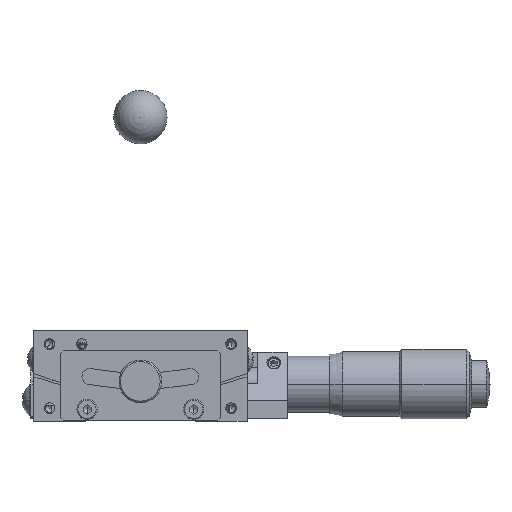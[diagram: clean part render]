
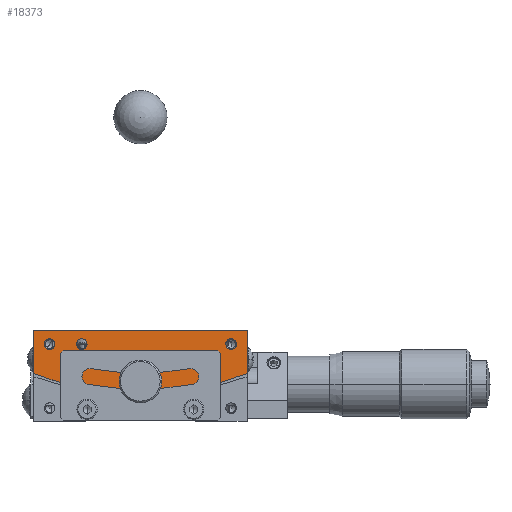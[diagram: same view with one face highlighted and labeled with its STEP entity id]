
A CAD part, front view. The second image highlights one B-rep face of the part: STEP entity #18373.
In plain terms, the highlighted planar face has unit normal (0, -1, 0) as drawn and (-1, 0, 0) by its records, which use the part's own axes.
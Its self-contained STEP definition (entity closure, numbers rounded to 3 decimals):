
#623 = CARTESIAN_POINT ( 'NONE',  ( -20., 10., -2.5 ) ) ;
#624 = DIRECTION ( 'NONE',  ( 0., -1., 0. ) ) ;
#625 = DIRECTION ( 'NONE',  ( -1., 0., 0. ) ) ;
#626 = CARTESIAN_POINT ( 'NONE',  ( -20., 11., -2.5 ) ) ;
#627 = AXIS2_PLACEMENT_3D ( 'NONE', #626, #625, #624 ) ;
#628 = CIRCLE ( 'NONE', #627, 1. ) ;
#629 = CARTESIAN_POINT ( 'NONE',  ( -20., 12., -2.5 ) ) ;
#635 = CARTESIAN_POINT ( 'NONE',  ( -20., -17.305, -3.452 ) ) ;
#636 = DIRECTION ( 'NONE',  ( 0., -0.305, -0.952 ) ) ;
#637 = DIRECTION ( 'NONE',  ( -1., 0., 0. ) ) ;
#638 = CARTESIAN_POINT ( 'NONE',  ( -20., -17., -2.5 ) ) ;
#639 = AXIS2_PLACEMENT_3D ( 'NONE', #638, #637, #636 ) ;
#640 = CIRCLE ( 'NONE', #639, 1. ) ;
#641 = CARTESIAN_POINT ( 'NONE',  ( -20., -16.695, -1.548 ) ) ;
#676 = DIRECTION ( 'NONE',  ( -1., 0., 0. ) ) ;
#677 = CARTESIAN_POINT ( 'NONE',  ( -20., 17., -2.5 ) ) ;
#678 = AXIS2_PLACEMENT_3D ( 'NONE', #677, #676, #736 ) ;
#679 = CIRCLE ( 'NONE', #678, 1. ) ;
#680 = CARTESIAN_POINT ( 'NONE',  ( -20., 16.375, -1.719 ) ) ;
#735 = CARTESIAN_POINT ( 'NONE',  ( -20., 17.625, -3.281 ) ) ;
#736 = DIRECTION ( 'NONE',  ( 0., 0.625, -0.781 ) ) ;
#12655 = CIRCLE ( 'NONE', #12723, 3. ) ;
#12659 = CARTESIAN_POINT ( 'NONE',  ( -20., 0., -9.5 ) ) ;
#12719 = CARTESIAN_POINT ( 'NONE',  ( -20., -3., -9.5 ) ) ;
#12720 = CARTESIAN_POINT ( 'NONE',  ( -20., -1.699, -11.972 ) ) ;
#12721 = DIRECTION ( 'NONE',  ( 0., 1., 0. ) ) ;
#12722 = DIRECTION ( 'NONE',  ( -1., 0., 0. ) ) ;
#12723 = AXIS2_PLACEMENT_3D ( 'NONE', #12659, #12722, #12721 ) ;
#12833 = CARTESIAN_POINT ( 'NONE',  ( -20., 1.699, -11.972 ) ) ;
#12835 = DIRECTION ( 'NONE',  ( 0., 1., 0. ) ) ;
#12837 = DIRECTION ( 'NONE',  ( -1., 0., 0. ) ) ;
#12838 = CARTESIAN_POINT ( 'NONE',  ( -20., 0., -9.5 ) ) ;
#12840 = AXIS2_PLACEMENT_3D ( 'NONE', #12838, #12837, #12835 ) ;
#12842 = CIRCLE ( 'NONE', #12840, 3. ) ;
#12848 = CARTESIAN_POINT ( 'NONE',  ( -20., 3., -9.5 ) ) ;
#14314 = DIRECTION ( 'NONE',  ( 0., 1., 0. ) ) ;
#14316 = DIRECTION ( 'NONE',  ( -1., 0., 0. ) ) ;
#14318 = AXIS2_PLACEMENT_3D ( 'NONE', #14329, #14316, #14314 ) ;
#14320 = CIRCLE ( 'NONE', #14318, 3. ) ;
#14329 = CARTESIAN_POINT ( 'NONE',  ( -20., 0., -9.5 ) ) ;
#17833 = EDGE_CURVE ( 'NONE', #17968, #17836, #32812, .T. ) ;
#17836 = VERTEX_POINT ( 'NONE', #32808 ) ;
#17968 = VERTEX_POINT ( 'NONE', #32920 ) ;
#17977 = EDGE_CURVE ( 'NONE', #17836, #17979, #32913, .T. ) ;
#17979 = VERTEX_POINT ( 'NONE', #32909 ) ;
#18146 = EDGE_CURVE ( 'NONE', #17979, #18147, #33049, .T. ) ;
#18147 = VERTEX_POINT ( 'NONE', #33045 ) ;
#18218 = EDGE_CURVE ( 'NONE', #23534, #23530, #33072, .T. ) ;
#18262 = ORIENTED_EDGE ( 'NONE', *, *, #18218, .F. ) ;
#18266 = ORIENTED_EDGE ( 'NONE', *, *, #23533, .F. ) ;
#18269 = EDGE_LOOP ( 'NONE', ( #18271, #18277, #18331, #18335, #18340, #18343, #18353, #18355 ) ) ;
#18271 = ORIENTED_EDGE ( 'NONE', *, *, #43833, .F. ) ;
#18277 = ORIENTED_EDGE ( 'NONE', *, *, #18472, .F. ) ;
#18296 = EDGE_CURVE ( 'NONE', #23455, #23450, #33137, .T. ) ;
#18331 = ORIENTED_EDGE ( 'NONE', *, *, #18146, .F. ) ;
#18335 = ORIENTED_EDGE ( 'NONE', *, *, #17977, .F. ) ;
#18340 = ORIENTED_EDGE ( 'NONE', *, *, #17833, .F. ) ;
#18343 = ORIENTED_EDGE ( 'NONE', *, *, #18349, .F. ) ;
#18349 = EDGE_CURVE ( 'NONE', #43882, #17968, #33154, .T. ) ;
#18353 = ORIENTED_EDGE ( 'NONE', *, *, #43881, .F. ) ;
#18355 = ORIENTED_EDGE ( 'NONE', *, *, #44275, .F. ) ;
#18371 = EDGE_CURVE ( 'NONE', #23468, #23460, #33199, .T. ) ;
#18373 = ADVANCED_FACE ( 'NONE', ( #33194, #33193, #33192, #33191 ), #33190, .F. ) ;
#18377 = EDGE_LOOP ( 'NONE', ( #18381, #18385 ) ) ;
#18381 = ORIENTED_EDGE ( 'NONE', *, *, #18371, .F. ) ;
#18385 = ORIENTED_EDGE ( 'NONE', *, *, #23465, .F. ) ;
#18386 = EDGE_LOOP ( 'NONE', ( #18394, #18397 ) ) ;
#18394 = ORIENTED_EDGE ( 'NONE', *, *, #18296, .F. ) ;
#18397 = ORIENTED_EDGE ( 'NONE', *, *, #23453, .F. ) ;
#18400 = EDGE_LOOP ( 'NONE', ( #18262, #18266 ) ) ;
#18472 = EDGE_CURVE ( 'NONE', #18147, #43835, #33295, .T. ) ;
#23450 = VERTEX_POINT ( 'NONE', #641 ) ;
#23453 = EDGE_CURVE ( 'NONE', #23450, #23455, #640, .T. ) ;
#23455 = VERTEX_POINT ( 'NONE', #635 ) ;
#23460 = VERTEX_POINT ( 'NONE', #629 ) ;
#23465 = EDGE_CURVE ( 'NONE', #23460, #23468, #628, .T. ) ;
#23468 = VERTEX_POINT ( 'NONE', #623 ) ;
#23530 = VERTEX_POINT ( 'NONE', #680 ) ;
#23533 = EDGE_CURVE ( 'NONE', #23530, #23534, #679, .T. ) ;
#23534 = VERTEX_POINT ( 'NONE', #735 ) ;
#32808 = CARTESIAN_POINT ( 'NONE',  ( -20., 20., 0. ) ) ;
#32809 = DIRECTION ( 'NONE',  ( 0., 0., 1. ) ) ;
#32810 = VECTOR ( 'NONE', #32809, 1000. ) ;
#32811 = CARTESIAN_POINT ( 'NONE',  ( -20., 20., -8. ) ) ;
#32812 = LINE ( 'NONE', #32811, #32810 ) ;
#32909 = CARTESIAN_POINT ( 'NONE',  ( -20., -20., 0. ) ) ;
#32910 = DIRECTION ( 'NONE',  ( 0., -1., 0. ) ) ;
#32911 = VECTOR ( 'NONE', #32910, 1000. ) ;
#32912 = CARTESIAN_POINT ( 'NONE',  ( -20., 20., 0. ) ) ;
#32913 = LINE ( 'NONE', #32912, #32911 ) ;
#32920 = CARTESIAN_POINT ( 'NONE',  ( -20., 20., -8. ) ) ;
#33045 = CARTESIAN_POINT ( 'NONE',  ( -20., -20., -8. ) ) ;
#33046 = DIRECTION ( 'NONE',  ( 0., 0., -1. ) ) ;
#33047 = VECTOR ( 'NONE', #33046, 1000. ) ;
#33048 = CARTESIAN_POINT ( 'NONE',  ( -20., -20., 0. ) ) ;
#33049 = LINE ( 'NONE', #33048, #33047 ) ;
#33063 = DIRECTION ( 'NONE',  ( 0., 0.625, -0.781 ) ) ;
#33064 = DIRECTION ( 'NONE',  ( -1., 0., 0. ) ) ;
#33065 = CARTESIAN_POINT ( 'NONE',  ( -20., 17., -2.5 ) ) ;
#33066 = AXIS2_PLACEMENT_3D ( 'NONE', #33065, #33064, #33063 ) ;
#33072 = CIRCLE ( 'NONE', #33066, 1. ) ;
#33128 = DIRECTION ( 'NONE',  ( 0., -0.305, -0.952 ) ) ;
#33129 = DIRECTION ( 'NONE',  ( -1., 0., 0. ) ) ;
#33130 = CARTESIAN_POINT ( 'NONE',  ( -20., -17., -2.5 ) ) ;
#33131 = AXIS2_PLACEMENT_3D ( 'NONE', #33130, #33129, #33128 ) ;
#33137 = CIRCLE ( 'NONE', #33131, 1. ) ;
#33151 = DIRECTION ( 'NONE',  ( 0., -1., 0. ) ) ;
#33152 = DIRECTION ( 'NONE',  ( 1., 0., 0. ) ) ;
#33153 = AXIS2_PLACEMENT_3D ( 'NONE', #33158, #33152, #33151 ) ;
#33154 = CIRCLE ( 'NONE', #33153, 52. ) ;
#33158 = CARTESIAN_POINT ( 'NONE',  ( -20., 0., 40. ) ) ;
#33185 = DIRECTION ( 'NONE',  ( 0., -1., 0. ) ) ;
#33186 = DIRECTION ( 'NONE',  ( 1., 0., 0. ) ) ;
#33187 = CARTESIAN_POINT ( 'NONE',  ( -20., 0., 40. ) ) ;
#33189 = AXIS2_PLACEMENT_3D ( 'NONE', #33187, #33186, #33185 ) ;
#33190 = PLANE ( 'NONE',  #33189 ) ;
#33191 = FACE_OUTER_BOUND ( 'NONE', #18269, .T. ) ;
#33192 = FACE_BOUND ( 'NONE', #18400, .T. ) ;
#33193 = FACE_BOUND ( 'NONE', #18386, .T. ) ;
#33194 = FACE_BOUND ( 'NONE', #18377, .T. ) ;
#33195 = DIRECTION ( 'NONE',  ( 0., -1., 0. ) ) ;
#33196 = DIRECTION ( 'NONE',  ( -1., 0., 0. ) ) ;
#33197 = CARTESIAN_POINT ( 'NONE',  ( -20., 11., -2.5 ) ) ;
#33198 = AXIS2_PLACEMENT_3D ( 'NONE', #33197, #33196, #33195 ) ;
#33199 = CIRCLE ( 'NONE', #33198, 1. ) ;
#33288 = DIRECTION ( 'NONE',  ( 0., -1., 0. ) ) ;
#33289 = DIRECTION ( 'NONE',  ( 1., 0., 0. ) ) ;
#33290 = CARTESIAN_POINT ( 'NONE',  ( -20., 0., 40. ) ) ;
#33291 = AXIS2_PLACEMENT_3D ( 'NONE', #33290, #33289, #33288 ) ;
#33295 = CIRCLE ( 'NONE', #33291, 52. ) ;
#43833 = EDGE_CURVE ( 'NONE', #43835, #43836, #12655, .T. ) ;
#43835 = VERTEX_POINT ( 'NONE', #12720 ) ;
#43836 = VERTEX_POINT ( 'NONE', #12719 ) ;
#43877 = VERTEX_POINT ( 'NONE', #12848 ) ;
#43881 = EDGE_CURVE ( 'NONE', #43877, #43882, #12842, .T. ) ;
#43882 = VERTEX_POINT ( 'NONE', #12833 ) ;
#44275 = EDGE_CURVE ( 'NONE', #43836, #43877, #14320, .T. ) ;
